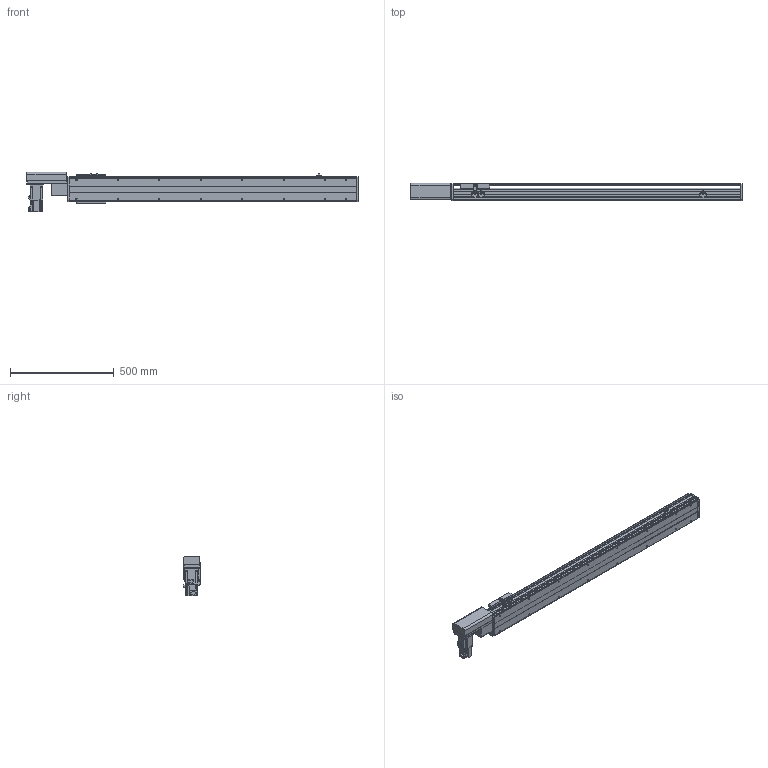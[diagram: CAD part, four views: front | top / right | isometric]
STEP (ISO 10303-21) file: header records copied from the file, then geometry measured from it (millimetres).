
FILE_DESCRIPTION(/* description */ ('STEP AP214'),/* implementation_level */ '2;1');
FILE_NAME(/* name */ 'PBS120-P40-S1100-R-T40-C1-N(0)',/* time_stamp */ '2022-06-06T02:07:01+02:00',/* author */ ('License CC BY-ND 4.0'),/* organization */ ('CADENAS'),/* preprocessor_version */ 'ST-DEVELOPER v18.102',/* originating_system */ 'PARTsolutions',/* authorisation */ ' ');
FILE_SCHEMA (('AUTOMOTIVE_DESIGN {1 0 10303 214 3 1 1}'));
Length unit declared in the file: millimetre
Products named in the file (7): PBS120-P40-S1100-R-T40-C1-N(0); PBS120_sensor; PBS120_plant; PBS120_sliser; T40-p1; PBS120T-R_motors; PBS120-S1100()_body
Assembly tree (8 placements, depth 2):
  PBS120-P40-S1100-R-T40-C1-N(0)
    PBS120_sensor  x3
    PBS120_plant
    PBS120_sliser
    T40-p1
    PBS120T-R_motors
    PBS120-S1100()_body
Bounding box: 1601 x 83 x 189.7 mm (x, y, z)
Volume: 6286685.6 mm3; surface area: 1235637.1 mm2
Topology: 8 solids, 8 shells, 828 faces, 2156 edges, 1387 vertices
Faces by surface type: plane 549, cylinder 229, cone 48, torus 2
Full cylindrical faces by diameter (mm): 2.459 x6, 3.242 x4, 4 x2, 4.134 x4, 4.5 x10, 4.917 x20, 5.5 x11, 6 x2, 6.6 x1, 7 x2, 8.5 x4, 9 x4, 12 x1, 14 x1, 30 x2, 40 x1, 50 x2
Entity records: 21594 total; most frequent: DIRECTION 3740, CARTESIAN_POINT 3677, ORIENTED_EDGE 3502, EDGE_CURVE 1751, AXIS2_PLACEMENT_3D 1256, LINE 1228, VECTOR 1228, VERTEX_POINT 1193
